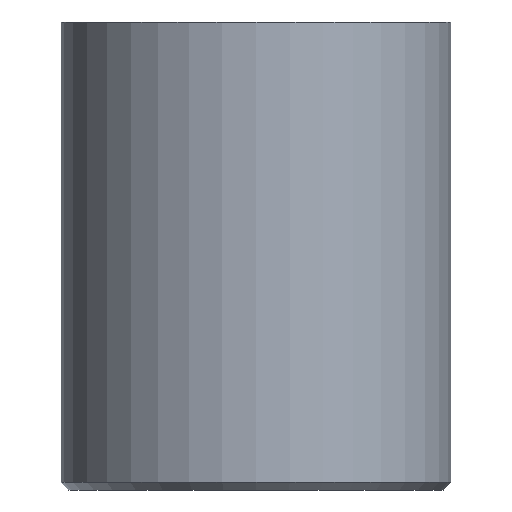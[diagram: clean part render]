
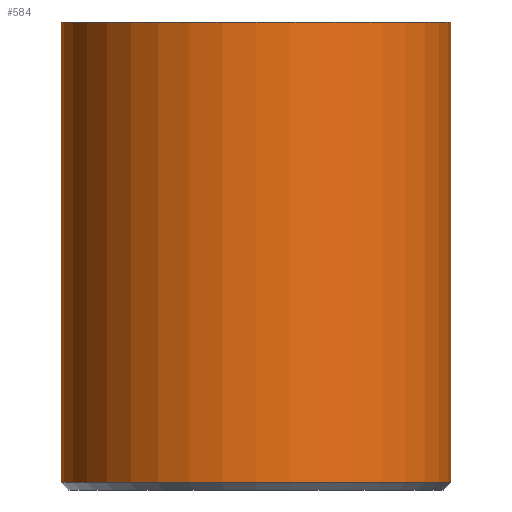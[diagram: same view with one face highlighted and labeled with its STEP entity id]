
A CAD part, front view. The second image highlights one B-rep face of the part: STEP entity #584.
In plain terms, the highlighted cylindrical face has radius 5 mm (diameter 10 mm), a partial arc.
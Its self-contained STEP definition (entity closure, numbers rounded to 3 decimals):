
#28 = VERTEX_POINT ( 'NONE', #658 ) ;
#69 = EDGE_CURVE ( 'NONE', #292, #262, #704, .T. ) ;
#88 = ORIENTED_EDGE ( 'NONE', *, *, #451, .T. ) ;
#100 = EDGE_LOOP ( 'NONE', ( #519, #154, #88, #591 ) ) ;
#112 = EDGE_CURVE ( 'NONE', #605, #28, #445, .T. ) ;
#120 = CYLINDRICAL_SURFACE ( 'NONE', #238, 5. ) ;
#134 = DIRECTION ( 'NONE',  ( 1., 0., 0. ) ) ;
#154 = ORIENTED_EDGE ( 'NONE', *, *, #69, .T. ) ;
#174 = DIRECTION ( 'NONE',  ( 0., 0., 1. ) ) ;
#182 = DIRECTION ( 'NONE',  ( 0., 0., 1. ) ) ;
#189 = CARTESIAN_POINT ( 'NONE',  ( 0., 0., 1. ) ) ;
#214 = CARTESIAN_POINT ( 'NONE',  ( -5., 0., -11.8 ) ) ;
#231 = LINE ( 'NONE', #564, #233 ) ;
#233 = VECTOR ( 'NONE', #174, 1000. ) ;
#238 = AXIS2_PLACEMENT_3D ( 'NONE', #189, #182, #134 ) ;
#242 = CARTESIAN_POINT ( 'NONE',  ( 5., 0., -11.8 ) ) ;
#262 = VERTEX_POINT ( 'NONE', #242 ) ;
#292 = VERTEX_POINT ( 'NONE', #214 ) ;
#298 = CARTESIAN_POINT ( 'NONE',  ( 0., 0., 0. ) ) ;
#320 = DIRECTION ( 'NONE',  ( 1., 0., 0. ) ) ;
#344 = DIRECTION ( 'NONE',  ( 0., 0., 1. ) ) ;
#353 = CARTESIAN_POINT ( 'NONE',  ( -5., 0., 1. ) ) ;
#445 = CIRCLE ( 'NONE', #620, 5. ) ;
#451 = EDGE_CURVE ( 'NONE', #262, #28, #231, .T. ) ;
#519 = ORIENTED_EDGE ( 'NONE', *, *, #778, .F. ) ;
#564 = CARTESIAN_POINT ( 'NONE',  ( 5., 0., 1. ) ) ;
#568 = CARTESIAN_POINT ( 'NONE',  ( 0., 0., -11.8 ) ) ;
#584 = ADVANCED_FACE ( 'NONE', ( #665 ), #120, .T. ) ;
#591 = ORIENTED_EDGE ( 'NONE', *, *, #112, .F. ) ;
#605 = VERTEX_POINT ( 'NONE', #641 ) ;
#620 = AXIS2_PLACEMENT_3D ( 'NONE', #298, #664, #320 ) ;
#641 = CARTESIAN_POINT ( 'NONE',  ( -5., 0., 0. ) ) ;
#645 = VECTOR ( 'NONE', #344, 1000. ) ;
#658 = CARTESIAN_POINT ( 'NONE',  ( 5., 0., 0. ) ) ;
#659 = AXIS2_PLACEMENT_3D ( 'NONE', #568, #721, #702 ) ;
#664 = DIRECTION ( 'NONE',  ( 0., 0., 1. ) ) ;
#665 = FACE_OUTER_BOUND ( 'NONE', #100, .T. ) ;
#702 = DIRECTION ( 'NONE',  ( 1., 0., 0. ) ) ;
#704 = CIRCLE ( 'NONE', #659, 5. ) ;
#721 = DIRECTION ( 'NONE',  ( 0., 0., 1. ) ) ;
#724 = LINE ( 'NONE', #353, #645 ) ;
#778 = EDGE_CURVE ( 'NONE', #292, #605, #724, .T. ) ;
